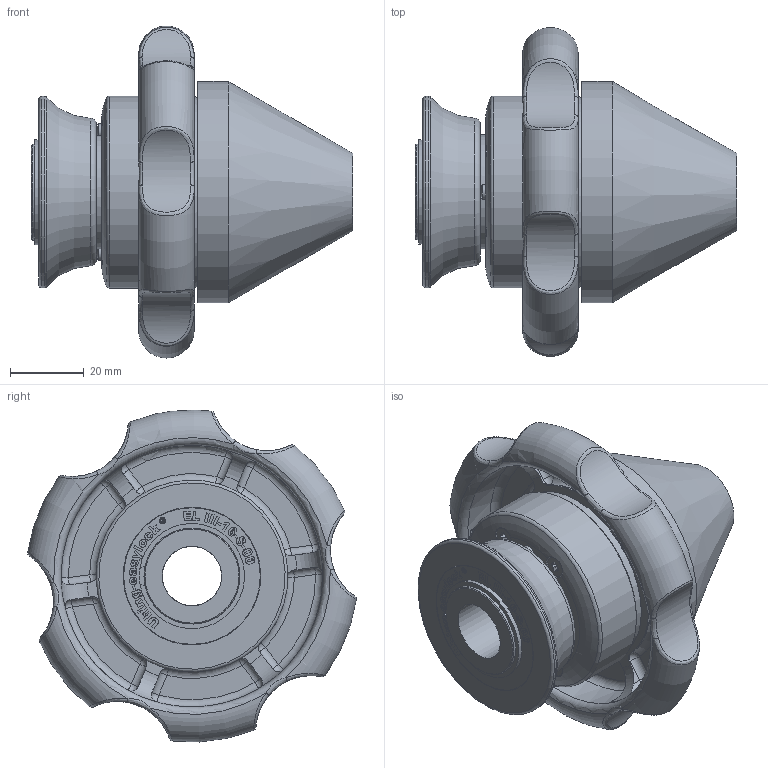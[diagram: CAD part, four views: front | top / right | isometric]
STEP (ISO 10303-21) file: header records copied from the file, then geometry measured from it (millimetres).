
FILE_DESCRIPTION (( 'STEP AP214' ), '1' );
FILE_NAME ('EL-III-16-K60.STEP', '2023-03-16T12:16:07', ( '' ), ( '' ), 'SwSTEP 2.0', 'SolidWorks 2022', '' );
FILE_SCHEMA (( 'AUTOMOTIVE_DESIGN' ));
Length unit declared in the file: millimetre
Products named in the file (1): EL-III-16-K60
Bounding box: 87.15 x 89.05 x 89.95 mm (x, y, z)
Volume: 128443.1 mm3; surface area: 82016.7 mm2
Topology: 46 solids, 76 shells, 1286 faces, 3240 edges, 2104 vertices
Faces by surface type: plane 576, bspline 397, cylinder 185, cone 62, torus 42, sphere 24
Full cylindrical faces by diameter (mm): 1.4 x2, 1.7 x2, 2.161 x4, 2.5 x7, 3 x4, 3.1 x4, 3.3 x1, 4 x3, 4.2 x4, 5.6 x4, 16.05 x3, 16.1 x1, 25 x1, 26 x5, 26.05 x1, 26.335 x2, 27 x1, 31 x1, 31.3 x1, 37 x1, 37.3 x1, 40 x2, 42.5 x1, 43.7 x4, 44 x5, 45 x2, 47 x1, 48 x1, 48.5 x2, 49.5 x1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
Entity records: 86552 total; most frequent: CARTESIAN_POINT 45261, ORIENTED_EDGE 5840, DIRECTION 4314, EDGE_CURVE 2920, VERTEX_POINT 1986, EDGE_LOOP 1552, VECTOR 1470, LINE 1470
